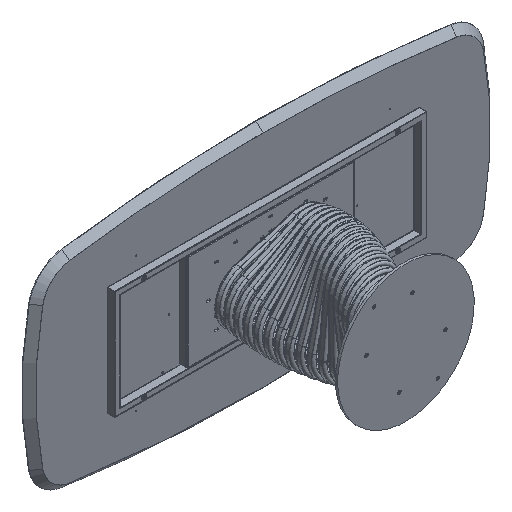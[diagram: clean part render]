
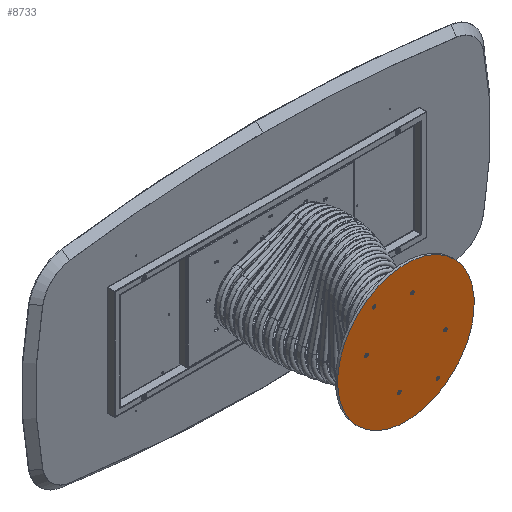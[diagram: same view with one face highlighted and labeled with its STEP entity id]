
A CAD part, isometric view. The second image highlights one B-rep face of the part: STEP entity #8733.
In plain terms, the highlighted planar face has unit normal (0, -1, 0).
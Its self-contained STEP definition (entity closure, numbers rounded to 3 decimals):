
#716 = CIRCLE ( 'NONE', #1854, 8.65 ) ;
#742 = EDGE_LOOP ( 'NONE', ( #21090, #21580 ) ) ;
#852 = CIRCLE ( 'NONE', #16080, 8.65 ) ;
#1187 = CIRCLE ( 'NONE', #17917, 8.65 ) ;
#1319 = CARTESIAN_POINT ( 'NONE',  ( -150., 0., 151.15 ) ) ;
#1344 = VERTEX_POINT ( 'NONE', #22707 ) ;
#1592 = EDGE_CURVE ( 'NONE', #11014, #22749, #2517, .T. ) ;
#1683 = DIRECTION ( 'NONE',  ( 0., 0., -1. ) ) ;
#1703 = CARTESIAN_POINT ( 'NONE',  ( 0., 0., 0. ) ) ;
#1752 = AXIS2_PLACEMENT_3D ( 'NONE', #5082, #12346, #19612 ) ;
#1854 = AXIS2_PLACEMENT_3D ( 'NONE', #15906, #14234, #17455 ) ;
#1937 = FACE_BOUND ( 'NONE', #10427, .T. ) ;
#1955 = DIRECTION ( 'NONE',  ( 0., -1., 0. ) ) ;
#2035 = ORIENTED_EDGE ( 'NONE', *, *, #23438, .F. ) ;
#2068 = AXIS2_PLACEMENT_3D ( 'NONE', #11247, #13158, #18868 ) ;
#2475 = VERTEX_POINT ( 'NONE', #14973 ) ;
#2517 = CIRCLE ( 'NONE', #1752, 350. ) ;
#2915 = DIRECTION ( 'NONE',  ( 0., -1., 0. ) ) ;
#3035 = CARTESIAN_POINT ( 'NONE',  ( -150., 0., 142.5 ) ) ;
#3131 = ORIENTED_EDGE ( 'NONE', *, *, #11089, .F. ) ;
#3239 = VERTEX_POINT ( 'NONE', #8386 ) ;
#3385 = DIRECTION ( 'NONE',  ( 0., 0., 1. ) ) ;
#3490 = FACE_BOUND ( 'NONE', #12552, .T. ) ;
#3601 = FACE_BOUND ( 'NONE', #16743, .T. ) ;
#3811 = VERTEX_POINT ( 'NONE', #23254 ) ;
#3831 = FACE_BOUND ( 'NONE', #4221, .T. ) ;
#4065 = CARTESIAN_POINT ( 'NONE',  ( -150., 0., -133.85 ) ) ;
#4221 = EDGE_LOOP ( 'NONE', ( #13131, #7357 ) ) ;
#4570 = CARTESIAN_POINT ( 'NONE',  ( 150., 0., -151.15 ) ) ;
#4663 = EDGE_CURVE ( 'NONE', #20035, #2475, #11322, .T. ) ;
#4700 = ORIENTED_EDGE ( 'NONE', *, *, #11676, .F. ) ;
#5082 = CARTESIAN_POINT ( 'NONE',  ( 0., 0., 0. ) ) ;
#5113 = CARTESIAN_POINT ( 'NONE',  ( -150., 0., -142.5 ) ) ;
#5144 = CIRCLE ( 'NONE', #22266, 8.65 ) ;
#5230 = VERTEX_POINT ( 'NONE', #21174 ) ;
#5242 = DIRECTION ( 'NONE',  ( 0., 0., -1. ) ) ;
#5285 = DIRECTION ( 'NONE',  ( 0., 1., 0. ) ) ;
#5715 = VERTEX_POINT ( 'NONE', #17336 ) ;
#5752 = CARTESIAN_POINT ( 'NONE',  ( 290., 0., 0. ) ) ;
#5760 = EDGE_CURVE ( 'NONE', #2475, #20035, #716, .T. ) ;
#5782 = AXIS2_PLACEMENT_3D ( 'NONE', #12139, #8207, #10361 ) ;
#5830 = CARTESIAN_POINT ( 'NONE',  ( 0., 0., -350. ) ) ;
#6337 = CARTESIAN_POINT ( 'NONE',  ( -290., 0., 0. ) ) ;
#6455 = ORIENTED_EDGE ( 'NONE', *, *, #7783, .F. ) ;
#6520 = AXIS2_PLACEMENT_3D ( 'NONE', #16210, #18113, #1683 ) ;
#6542 = VERTEX_POINT ( 'NONE', #16175 ) ;
#6845 = CARTESIAN_POINT ( 'NONE',  ( 0., 0., 0. ) ) ;
#7011 = DIRECTION ( 'NONE',  ( 0., 0., -1. ) ) ;
#7259 = DIRECTION ( 'NONE',  ( 0., 0., -1. ) ) ;
#7265 = CIRCLE ( 'NONE', #14127, 8.65 ) ;
#7357 = ORIENTED_EDGE ( 'NONE', *, *, #18275, .F. ) ;
#7403 = FACE_BOUND ( 'NONE', #742, .T. ) ;
#7783 = EDGE_CURVE ( 'NONE', #3239, #6542, #1187, .T. ) ;
#8207 = DIRECTION ( 'NONE',  ( 0., -1., 0. ) ) ;
#8283 = DIRECTION ( 'NONE',  ( 0., -1., 0. ) ) ;
#8384 = VERTEX_POINT ( 'NONE', #4570 ) ;
#8386 = CARTESIAN_POINT ( 'NONE',  ( 150., 0., 151.15 ) ) ;
#8509 = DIRECTION ( 'NONE',  ( 0., 0., -1. ) ) ;
#8656 = VERTEX_POINT ( 'NONE', #23390 ) ;
#8733 = ADVANCED_FACE ( 'NONE', ( #3601, #3490, #1937, #3831, #14441, #7403, #21938 ), #12542, .F. ) ;
#8831 = CIRCLE ( 'NONE', #6520, 8.65 ) ;
#8872 = DIRECTION ( 'NONE',  ( 0., 0., -1. ) ) ;
#9443 = EDGE_LOOP ( 'NONE', ( #15055, #14926 ) ) ;
#9672 = AXIS2_PLACEMENT_3D ( 'NONE', #6337, #13618, #5242 ) ;
#10361 = DIRECTION ( 'NONE',  ( 0., 0., -1. ) ) ;
#10386 = CIRCLE ( 'NONE', #13808, 350. ) ;
#10427 = EDGE_LOOP ( 'NONE', ( #2035, #23047 ) ) ;
#11014 = VERTEX_POINT ( 'NONE', #20085 ) ;
#11089 = EDGE_CURVE ( 'NONE', #12839, #18061, #852, .T. ) ;
#11247 = CARTESIAN_POINT ( 'NONE',  ( 150., 0., -142.5 ) ) ;
#11322 = CIRCLE ( 'NONE', #14347, 8.65 ) ;
#11676 = EDGE_CURVE ( 'NONE', #8656, #3811, #12722, .T. ) ;
#11945 = CIRCLE ( 'NONE', #2068, 8.65 ) ;
#12139 = CARTESIAN_POINT ( 'NONE',  ( 150., 0., 142.5 ) ) ;
#12346 = DIRECTION ( 'NONE',  ( 0., 1., 0. ) ) ;
#12542 = PLANE ( 'NONE',  #13382 ) ;
#12552 = EDGE_LOOP ( 'NONE', ( #3131, #16807 ) ) ;
#12722 = CIRCLE ( 'NONE', #9672, 8.65 ) ;
#12839 = VERTEX_POINT ( 'NONE', #15884 ) ;
#12913 = CIRCLE ( 'NONE', #22421, 8.65 ) ;
#13131 = ORIENTED_EDGE ( 'NONE', *, *, #21231, .F. ) ;
#13158 = DIRECTION ( 'NONE',  ( 0., -1., 0. ) ) ;
#13382 = AXIS2_PLACEMENT_3D ( 'NONE', #1703, #18130, #16473 ) ;
#13618 = DIRECTION ( 'NONE',  ( 0., -1., 0. ) ) ;
#13808 = AXIS2_PLACEMENT_3D ( 'NONE', #6845, #5285, #3385 ) ;
#13973 = ORIENTED_EDGE ( 'NONE', *, *, #15448, .F. ) ;
#14127 = AXIS2_PLACEMENT_3D ( 'NONE', #5113, #21189, #7011 ) ;
#14234 = DIRECTION ( 'NONE',  ( 0., -1., 0. ) ) ;
#14347 = AXIS2_PLACEMENT_3D ( 'NONE', #3035, #2915, #8509 ) ;
#14441 = FACE_BOUND ( 'NONE', #19986, .T. ) ;
#14574 = CIRCLE ( 'NONE', #16864, 8.65 ) ;
#14729 = DIRECTION ( 'NONE',  ( 0., -1., 0. ) ) ;
#14756 = CARTESIAN_POINT ( 'NONE',  ( -290., 0., 0. ) ) ;
#14811 = DIRECTION ( 'NONE',  ( 0., 0., -1. ) ) ;
#14926 = ORIENTED_EDGE ( 'NONE', *, *, #1592, .F. ) ;
#14973 = CARTESIAN_POINT ( 'NONE',  ( -150., 0., 133.85 ) ) ;
#15055 = ORIENTED_EDGE ( 'NONE', *, *, #21103, .F. ) ;
#15436 = CARTESIAN_POINT ( 'NONE',  ( -150., 0., -142.5 ) ) ;
#15448 = EDGE_CURVE ( 'NONE', #3811, #8656, #12913, .T. ) ;
#15884 = CARTESIAN_POINT ( 'NONE',  ( -150., 0., -151.15 ) ) ;
#15906 = CARTESIAN_POINT ( 'NONE',  ( -150., 0., 142.5 ) ) ;
#16070 = CIRCLE ( 'NONE', #5782, 8.65 ) ;
#16080 = AXIS2_PLACEMENT_3D ( 'NONE', #15436, #8283, #16986 ) ;
#16175 = CARTESIAN_POINT ( 'NONE',  ( 150., 0., 133.85 ) ) ;
#16210 = CARTESIAN_POINT ( 'NONE',  ( 290., 0., 0. ) ) ;
#16361 = CARTESIAN_POINT ( 'NONE',  ( 150., 0., -142.5 ) ) ;
#16473 = DIRECTION ( 'NONE',  ( 0., 0., 1. ) ) ;
#16533 = ORIENTED_EDGE ( 'NONE', *, *, #18709, .F. ) ;
#16666 = DIRECTION ( 'NONE',  ( 0., -1., 0. ) ) ;
#16743 = EDGE_LOOP ( 'NONE', ( #13973, #4700 ) ) ;
#16807 = ORIENTED_EDGE ( 'NONE', *, *, #17606, .F. ) ;
#16864 = AXIS2_PLACEMENT_3D ( 'NONE', #5752, #1955, #14811 ) ;
#16986 = DIRECTION ( 'NONE',  ( 0., 0., -1. ) ) ;
#17336 = CARTESIAN_POINT ( 'NONE',  ( 290., 0., -8.65 ) ) ;
#17455 = DIRECTION ( 'NONE',  ( 0., 0., -1. ) ) ;
#17606 = EDGE_CURVE ( 'NONE', #18061, #12839, #7265, .T. ) ;
#17917 = AXIS2_PLACEMENT_3D ( 'NONE', #20453, #14729, #20222 ) ;
#18061 = VERTEX_POINT ( 'NONE', #4065 ) ;
#18113 = DIRECTION ( 'NONE',  ( 0., -1., 0. ) ) ;
#18130 = DIRECTION ( 'NONE',  ( 0., 1., 0. ) ) ;
#18275 = EDGE_CURVE ( 'NONE', #1344, #5715, #8831, .T. ) ;
#18709 = EDGE_CURVE ( 'NONE', #6542, #3239, #16070, .T. ) ;
#18868 = DIRECTION ( 'NONE',  ( 0., 0., -1. ) ) ;
#19612 = DIRECTION ( 'NONE',  ( 0., 0., 1. ) ) ;
#19986 = EDGE_LOOP ( 'NONE', ( #16533, #6455 ) ) ;
#20035 = VERTEX_POINT ( 'NONE', #1319 ) ;
#20085 = CARTESIAN_POINT ( 'NONE',  ( 0., 0., 350. ) ) ;
#20222 = DIRECTION ( 'NONE',  ( 0., 0., -1. ) ) ;
#20453 = CARTESIAN_POINT ( 'NONE',  ( 150., 0., 142.5 ) ) ;
#21090 = ORIENTED_EDGE ( 'NONE', *, *, #5760, .F. ) ;
#21103 = EDGE_CURVE ( 'NONE', #22749, #11014, #10386, .T. ) ;
#21174 = CARTESIAN_POINT ( 'NONE',  ( 150., 0., -133.85 ) ) ;
#21189 = DIRECTION ( 'NONE',  ( 0., -1., 0. ) ) ;
#21231 = EDGE_CURVE ( 'NONE', #5715, #1344, #14574, .T. ) ;
#21580 = ORIENTED_EDGE ( 'NONE', *, *, #4663, .F. ) ;
#21938 = FACE_OUTER_BOUND ( 'NONE', #9443, .T. ) ;
#22152 = EDGE_CURVE ( 'NONE', #5230, #8384, #11945, .T. ) ;
#22266 = AXIS2_PLACEMENT_3D ( 'NONE', #16361, #23507, #8872 ) ;
#22421 = AXIS2_PLACEMENT_3D ( 'NONE', #14756, #16666, #7259 ) ;
#22707 = CARTESIAN_POINT ( 'NONE',  ( 290., 0., 8.65 ) ) ;
#22749 = VERTEX_POINT ( 'NONE', #5830 ) ;
#23047 = ORIENTED_EDGE ( 'NONE', *, *, #22152, .F. ) ;
#23254 = CARTESIAN_POINT ( 'NONE',  ( -290., 0., -8.65 ) ) ;
#23390 = CARTESIAN_POINT ( 'NONE',  ( -290., 0., 8.65 ) ) ;
#23438 = EDGE_CURVE ( 'NONE', #8384, #5230, #5144, .T. ) ;
#23507 = DIRECTION ( 'NONE',  ( 0., -1., 0. ) ) ;
